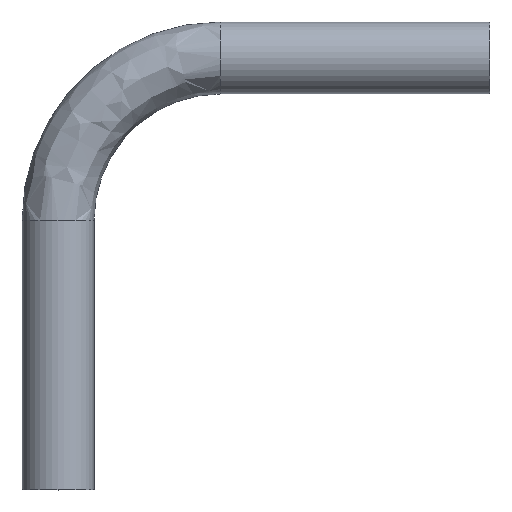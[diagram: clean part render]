
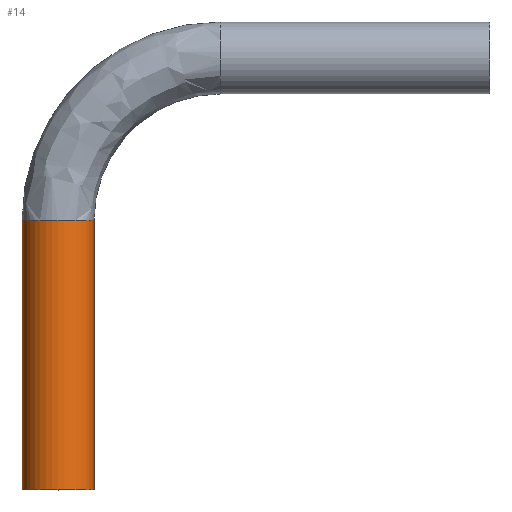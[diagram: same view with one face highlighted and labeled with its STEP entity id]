
A CAD part, top view. The second image highlights one B-rep face of the part: STEP entity #14.
In plain terms, the highlighted cylindrical face has radius 6.35 mm (diameter 12.7 mm), a partial arc.
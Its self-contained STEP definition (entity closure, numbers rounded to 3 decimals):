
#1 = AXIS2_PLACEMENT_3D ( 'NONE', #354, #83, #330 ) ;
#9 = VERTEX_POINT ( 'NONE', #458 ) ;
#14 = ADVANCED_FACE ( 'NONE', ( #201 ), #212, .T. ) ;
#23 = EDGE_CURVE ( 'NONE', #338, #9, #211, .T. ) ;
#57 = CARTESIAN_POINT ( 'NONE',  ( -6.35, 47.6, 0. ) ) ;
#64 = DIRECTION ( 'NONE',  ( 0., -1., 0. ) ) ;
#68 = EDGE_CURVE ( 'NONE', #338, #386, #111, .T. ) ;
#83 = DIRECTION ( 'NONE',  ( 0., -1., 0. ) ) ;
#85 = DIRECTION ( 'NONE',  ( 0., -1., 0. ) ) ;
#93 = CARTESIAN_POINT ( 'NONE',  ( 6.35, 47.6, 0. ) ) ;
#100 = ORIENTED_EDGE ( 'NONE', *, *, #23, .T. ) ;
#103 = DIRECTION ( 'NONE',  ( 1., 0., 0. ) ) ;
#111 = LINE ( 'NONE', #140, #288 ) ;
#127 = CARTESIAN_POINT ( 'NONE',  ( 0., 47.6, 0. ) ) ;
#138 = DIRECTION ( 'NONE',  ( 1., 0., 0. ) ) ;
#140 = CARTESIAN_POINT ( 'NONE',  ( 6.35, 47.6, 0. ) ) ;
#164 = CARTESIAN_POINT ( 'NONE',  ( 6.35, 0., 0. ) ) ;
#171 = AXIS2_PLACEMENT_3D ( 'NONE', #127, #64, #138 ) ;
#201 = FACE_OUTER_BOUND ( 'NONE', #451, .T. ) ;
#211 = CIRCLE ( 'NONE', #171, 6.35 ) ;
#212 = CYLINDRICAL_SURFACE ( 'NONE', #1, 6.35 ) ;
#214 = EDGE_CURVE ( 'NONE', #326, #386, #341, .T. ) ;
#236 = DIRECTION ( 'NONE',  ( 0., -1., 0. ) ) ;
#251 = LINE ( 'NONE', #57, #279 ) ;
#253 = ORIENTED_EDGE ( 'NONE', *, *, #214, .T. ) ;
#279 = VECTOR ( 'NONE', #85, 1000. ) ;
#288 = VECTOR ( 'NONE', #236, 1000. ) ;
#291 = EDGE_CURVE ( 'NONE', #9, #326, #251, .T. ) ;
#326 = VERTEX_POINT ( 'NONE', #394 ) ;
#330 = DIRECTION ( 'NONE',  ( 1., 0., 0. ) ) ;
#338 = VERTEX_POINT ( 'NONE', #93 ) ;
#341 = CIRCLE ( 'NONE', #454, 6.35 ) ;
#354 = CARTESIAN_POINT ( 'NONE',  ( 0., 47.6, 0. ) ) ;
#373 = ORIENTED_EDGE ( 'NONE', *, *, #68, .F. ) ;
#386 = VERTEX_POINT ( 'NONE', #164 ) ;
#394 = CARTESIAN_POINT ( 'NONE',  ( -6.35, 0., 0. ) ) ;
#435 = CARTESIAN_POINT ( 'NONE',  ( 0., 0., 0. ) ) ;
#440 = ORIENTED_EDGE ( 'NONE', *, *, #291, .T. ) ;
#451 = EDGE_LOOP ( 'NONE', ( #100, #440, #253, #373 ) ) ;
#454 = AXIS2_PLACEMENT_3D ( 'NONE', #435, #465, #103 ) ;
#458 = CARTESIAN_POINT ( 'NONE',  ( -6.35, 47.6, 0. ) ) ;
#465 = DIRECTION ( 'NONE',  ( 0., 1., 0. ) ) ;
